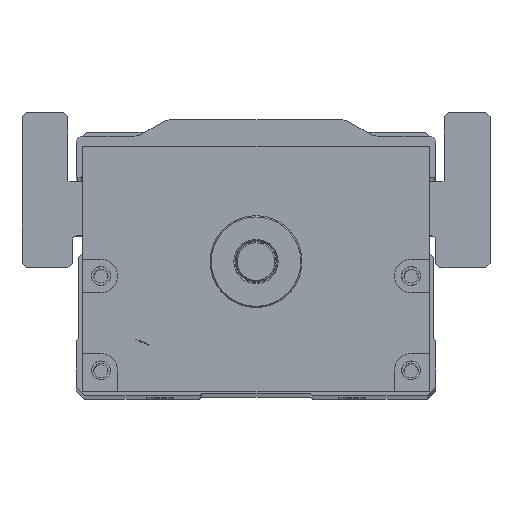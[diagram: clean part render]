
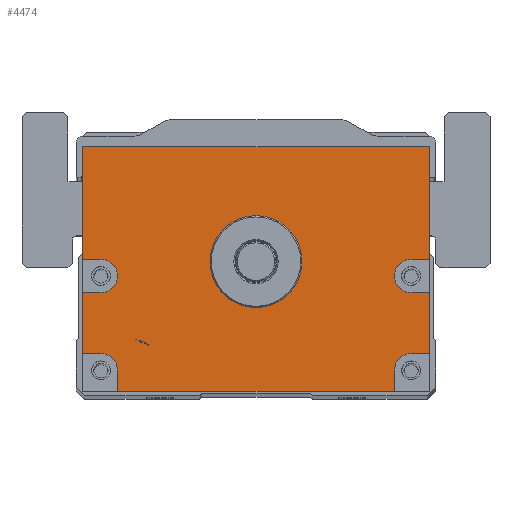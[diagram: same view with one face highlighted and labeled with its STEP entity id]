
A CAD part, top view. The second image highlights one B-rep face of the part: STEP entity #4474.
In plain terms, the highlighted planar face has unit normal (0, 0, 1).
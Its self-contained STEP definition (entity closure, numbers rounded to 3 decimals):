
#4474=ADVANCED_FACE('',(#6966,#6967),#4961,.T.);
#4961=PLANE('',#15265);
#5623=LINE('',#22006,#6426);
#5625=LINE('',#22014,#6428);
#5626=LINE('',#22017,#6429);
#5627=LINE('',#22019,#6430);
#5628=LINE('',#22023,#6431);
#5629=LINE('',#22025,#6432);
#5630=LINE('',#22026,#6433);
#5631=LINE('',#22028,#6434);
#5632=LINE('',#22032,#6435);
#5633=LINE('',#22034,#6436);
#5634=LINE('',#22036,#6437);
#5635=LINE('',#22040,#6438);
#5636=LINE('',#22042,#6439);
#5637=LINE('',#22044,#6440);
#6426=VECTOR('',#17718,1.);
#6428=VECTOR('',#17726,1.);
#6429=VECTOR('',#17727,1.);
#6430=VECTOR('',#17728,1.);
#6431=VECTOR('',#17731,1.);
#6432=VECTOR('',#17732,1.);
#6433=VECTOR('',#17733,1.);
#6434=VECTOR('',#17734,1.);
#6435=VECTOR('',#17737,1.);
#6436=VECTOR('',#17738,1.);
#6437=VECTOR('',#17739,1.);
#6438=VECTOR('',#17742,1.);
#6439=VECTOR('',#17743,1.);
#6440=VECTOR('',#17744,1.);
#6966=FACE_BOUND('',#7810,.T.);
#6967=FACE_BOUND('',#7811,.T.);
#7810=EDGE_LOOP('',(#10265,#10266,#10267,#10268,#10269,#10270,#10271,#10272,
#10273,#10274,#10275,#10276,#10277,#10278,#10279,#10280,#10281,#10282));
#7811=EDGE_LOOP('',(#10283));
#10265=ORIENTED_EDGE('',*,*,#13518,.F.);
#10266=ORIENTED_EDGE('',*,*,#13519,.T.);
#10267=ORIENTED_EDGE('',*,*,#13520,.F.);
#10268=ORIENTED_EDGE('',*,*,#13521,.F.);
#10269=ORIENTED_EDGE('',*,*,#13522,.F.);
#10270=ORIENTED_EDGE('',*,*,#13523,.T.);
#10271=ORIENTED_EDGE('',*,*,#13514,.T.);
#10272=ORIENTED_EDGE('',*,*,#13524,.T.);
#10273=ORIENTED_EDGE('',*,*,#13525,.F.);
#10274=ORIENTED_EDGE('',*,*,#13526,.F.);
#10275=ORIENTED_EDGE('',*,*,#13527,.F.);
#10276=ORIENTED_EDGE('',*,*,#13528,.T.);
#10277=ORIENTED_EDGE('',*,*,#13529,.F.);
#10278=ORIENTED_EDGE('',*,*,#13530,.F.);
#10279=ORIENTED_EDGE('',*,*,#13531,.F.);
#10280=ORIENTED_EDGE('',*,*,#13532,.T.);
#10281=ORIENTED_EDGE('',*,*,#13533,.F.);
#10282=ORIENTED_EDGE('',*,*,#13534,.F.);
#10283=ORIENTED_EDGE('',*,*,#13500,.T.);
#12064=VERTEX_POINT('',#21977);
#12077=VERTEX_POINT('',#22005);
#12078=VERTEX_POINT('',#22007);
#12081=VERTEX_POINT('',#22015);
#12082=VERTEX_POINT('',#22016);
#12083=VERTEX_POINT('',#22018);
#12084=VERTEX_POINT('',#22020);
#12085=VERTEX_POINT('',#22022);
#12086=VERTEX_POINT('',#22024);
#12087=VERTEX_POINT('',#22027);
#12088=VERTEX_POINT('',#22029);
#12089=VERTEX_POINT('',#22031);
#12090=VERTEX_POINT('',#22033);
#12091=VERTEX_POINT('',#22035);
#12092=VERTEX_POINT('',#22037);
#12093=VERTEX_POINT('',#22039);
#12094=VERTEX_POINT('',#22041);
#12095=VERTEX_POINT('',#22043);
#12096=VERTEX_POINT('',#22045);
#13500=EDGE_CURVE('',#12064,#12064,#14333,.T.);
#13514=EDGE_CURVE('',#12078,#12077,#5623,.T.);
#13518=EDGE_CURVE('',#12081,#12082,#5625,.T.);
#13519=EDGE_CURVE('',#12081,#12083,#5626,.T.);
#13520=EDGE_CURVE('',#12084,#12083,#5627,.T.);
#13521=EDGE_CURVE('',#12085,#12084,#14344,.T.);
#13522=EDGE_CURVE('',#12086,#12085,#5628,.T.);
#13523=EDGE_CURVE('',#12086,#12078,#5629,.T.);
#13524=EDGE_CURVE('',#12077,#12087,#5630,.T.);
#13525=EDGE_CURVE('',#12088,#12087,#5631,.T.);
#13526=EDGE_CURVE('',#12089,#12088,#14345,.T.);
#13527=EDGE_CURVE('',#12090,#12089,#5632,.T.);
#13528=EDGE_CURVE('',#12090,#12091,#5633,.T.);
#13529=EDGE_CURVE('',#12092,#12091,#5634,.T.);
#13530=EDGE_CURVE('',#12093,#12092,#14346,.T.);
#13531=EDGE_CURVE('',#12094,#12093,#5635,.T.);
#13532=EDGE_CURVE('',#12094,#12095,#5636,.T.);
#13533=EDGE_CURVE('',#12096,#12095,#5637,.T.);
#13534=EDGE_CURVE('',#12082,#12096,#14347,.T.);
#14333=CIRCLE('',#15247,11.);
#14344=CIRCLE('',#15261,4.);
#14345=CIRCLE('',#15262,4.);
#14346=CIRCLE('',#15263,4.);
#14347=CIRCLE('',#15264,4.);
#15247=AXIS2_PLACEMENT_3D('',#21976,#17691,#17692);
#15261=AXIS2_PLACEMENT_3D('',#22021,#17729,#17730);
#15262=AXIS2_PLACEMENT_3D('',#22030,#17735,#17736);
#15263=AXIS2_PLACEMENT_3D('',#22038,#17740,#17741);
#15264=AXIS2_PLACEMENT_3D('',#22046,#17745,#17746);
#15265=AXIS2_PLACEMENT_3D('',#22047,#17747,#17748);
#17691=DIRECTION('',(0.,0.,-1.));
#17692=DIRECTION('',(1.,0.,0.));
#17718=DIRECTION('',(-1.,0.,0.));
#17726=DIRECTION('',(-1.,0.,0.));
#17727=DIRECTION('',(0.,1.,0.));
#17728=DIRECTION('',(1.,0.,0.));
#17729=DIRECTION('',(0.,0.,1.));
#17730=DIRECTION('',(1.,0.,0.));
#17731=DIRECTION('',(-1.,0.,0.));
#17732=DIRECTION('',(0.,1.,0.));
#17733=DIRECTION('',(0.,-1.,0.));
#17734=DIRECTION('',(-1.,0.,0.));
#17735=DIRECTION('',(0.,0.,1.));
#17736=DIRECTION('',(1.,0.,0.));
#17737=DIRECTION('',(1.,0.,0.));
#17738=DIRECTION('',(0.,-1.,0.));
#17739=DIRECTION('',(-1.,0.,0.));
#17740=DIRECTION('',(0.,0.,1.));
#17741=DIRECTION('',(1.,0.,0.));
#17742=DIRECTION('',(0.,1.,0.));
#17743=DIRECTION('',(1.,0.,0.));
#17744=DIRECTION('',(0.,-1.,0.));
#17745=DIRECTION('',(0.,0.,1.));
#17746=DIRECTION('',(1.,0.,0.));
#17747=DIRECTION('',(0.,0.,1.));
#17748=DIRECTION('',(1.,0.,0.));
#21976=CARTESIAN_POINT('',(450.,0.,382.5));
#21977=CARTESIAN_POINT('',(461.,0.,382.5));
#22005=CARTESIAN_POINT('',(408.5,27.5,382.5));
#22006=CARTESIAN_POINT('',(491.5,27.5,382.5));
#22007=CARTESIAN_POINT('',(491.5,27.5,382.5));
#22014=CARTESIAN_POINT('',(491.5,-22.,382.5));
#22015=CARTESIAN_POINT('',(491.5,-22.,382.5));
#22016=CARTESIAN_POINT('',(487.115,-22.,382.5));
#22017=CARTESIAN_POINT('',(491.5,-31.,382.5));
#22018=CARTESIAN_POINT('',(491.5,-7.431,382.5));
#22019=CARTESIAN_POINT('',(491.5,-7.431,382.5));
#22020=CARTESIAN_POINT('',(487.115,-7.431,382.5));
#22021=CARTESIAN_POINT('',(487.115,-3.431,382.5));
#22022=CARTESIAN_POINT('',(487.115,0.569,382.5));
#22023=CARTESIAN_POINT('',(491.5,0.569,382.5));
#22024=CARTESIAN_POINT('',(491.5,0.569,382.5));
#22025=CARTESIAN_POINT('',(491.5,-31.,382.5));
#22026=CARTESIAN_POINT('',(408.5,27.5,382.5));
#22027=CARTESIAN_POINT('',(408.5,0.569,382.5));
#22028=CARTESIAN_POINT('',(491.5,0.569,382.5));
#22029=CARTESIAN_POINT('',(412.885,0.569,382.5));
#22030=CARTESIAN_POINT('',(412.885,-3.431,382.5));
#22031=CARTESIAN_POINT('',(412.885,-7.431,382.5));
#22032=CARTESIAN_POINT('',(491.5,-7.431,382.5));
#22033=CARTESIAN_POINT('',(408.5,-7.431,382.5));
#22034=CARTESIAN_POINT('',(408.5,27.5,382.5));
#22035=CARTESIAN_POINT('',(408.5,-22.,382.5));
#22036=CARTESIAN_POINT('',(491.5,-22.,382.5));
#22037=CARTESIAN_POINT('',(412.885,-22.,382.5));
#22038=CARTESIAN_POINT('',(412.885,-26.,382.5));
#22039=CARTESIAN_POINT('',(416.885,-26.,382.5));
#22040=CARTESIAN_POINT('',(416.885,-31.,382.5));
#22041=CARTESIAN_POINT('',(416.885,-31.,382.5));
#22042=CARTESIAN_POINT('',(408.5,-31.,382.5));
#22043=CARTESIAN_POINT('',(483.115,-31.,382.5));
#22044=CARTESIAN_POINT('',(483.115,-31.,382.5));
#22045=CARTESIAN_POINT('',(483.115,-26.,382.5));
#22046=CARTESIAN_POINT('',(487.115,-26.,382.5));
#22047=CARTESIAN_POINT('',(491.5,-31.,382.5));
